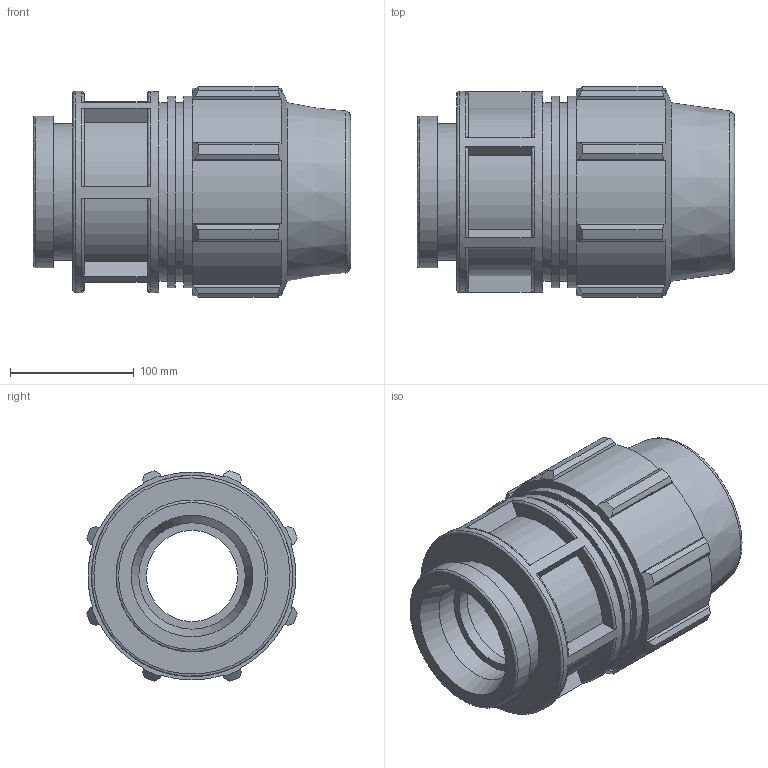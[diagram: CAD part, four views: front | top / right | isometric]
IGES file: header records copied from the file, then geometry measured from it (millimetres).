
Global section: file name: 873200110040.ipt; native system: Autodesk Inventor 2015; preprocessor: unknown; author: KIM; date: 20170608.042722; units: millimetre
Bounding box: 257 x 170.31 x 170.31 mm (x, y, z)
Volume: 2520233.6 mm3; surface area: 270281.4 mm2
Topology: 1 solids, 1 shells, 128 faces, 341 edges, 230 vertices
Faces by surface type: plane 68, cylinder 29, revolution 21, cone 10
Full cylindrical faces by diameter (mm): 110.7 x1, 123 x1, 144.8 x2, 154.755 x2, 162.9 x1
